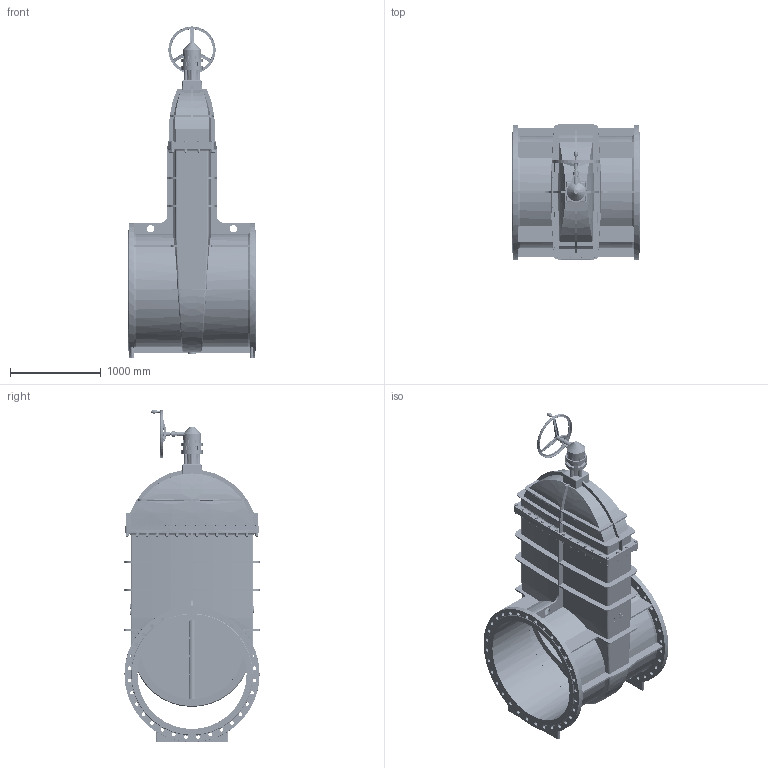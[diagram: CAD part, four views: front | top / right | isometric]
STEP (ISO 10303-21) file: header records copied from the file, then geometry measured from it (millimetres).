
FILE_DESCRIPTION(('STEP AP242'), '1');
FILE_NAME('青溻桄赅', '', ('UNSPECIFIED'), ('UNSPECIFIED'), 'C3D Converter', 'C3D Toolkit', '');
FILE_SCHEMA(('AP242_MANAGED_MODEL_BASED_3D_ENGINEERING_MIM_LF { 1 0 10303 442 1 1 4 }'));
Length unit declared in the file: millimetre
Assembly tree (218 placements, depth 2):
  (unnamed)
    (unnamed)
    (unnamed)
    (unnamed)
    (unnamed)  x2
    (unnamed)
    (unnamed)
    (unnamed)
    (unnamed)
    (unnamed)
    (unnamed)  x32
    (unnamed)  x64
    (unnamed)  x64
    (unnamed)  x32
    (unnamed)  x12
    (unnamed)  x4
Bounding box: 1400 x 1485 x 3649.32 mm (x, y, z)
Volume: 196897423.9 mm3; surface area: 38246987.2 mm2
Topology: 223 solids, 224 shells, 3655 faces, 8841 edges, 5724 vertices
Faces by surface type: plane 2084, cylinder 832, cone 444, extrusion 143, torus 88, bspline 64
Full cylindrical faces by diameter (mm): 5 x12, 6 x38, 10 x16, 12 x20, 17.294 x32, 18 x8, 20 x37, 22 x160, 30 x32, 34 x64, 40 x65, 46 x9, 50 x1, 60 x2, 80 x2, 81.293 x1, 84 x5, 92 x1, 174.122 x2, 203.548 x1, 232.973 x3, 460 x1, 470 x1, 510 x1, 520 x1, 1143 x2, 1200 x4, 1268.4 x4, 1314 x1, 1485 x2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
Entity records: 81226 total; most frequent: CARTESIAN_POINT 32552, DIRECTION 8357, ORIENTED_EDGE 7987, EDGE_CURVE 4225, AXIS2_PLACEMENT_3D 3138, VERTEX_POINT 3123, EDGE_LOOP 2311, VECTOR 2081
